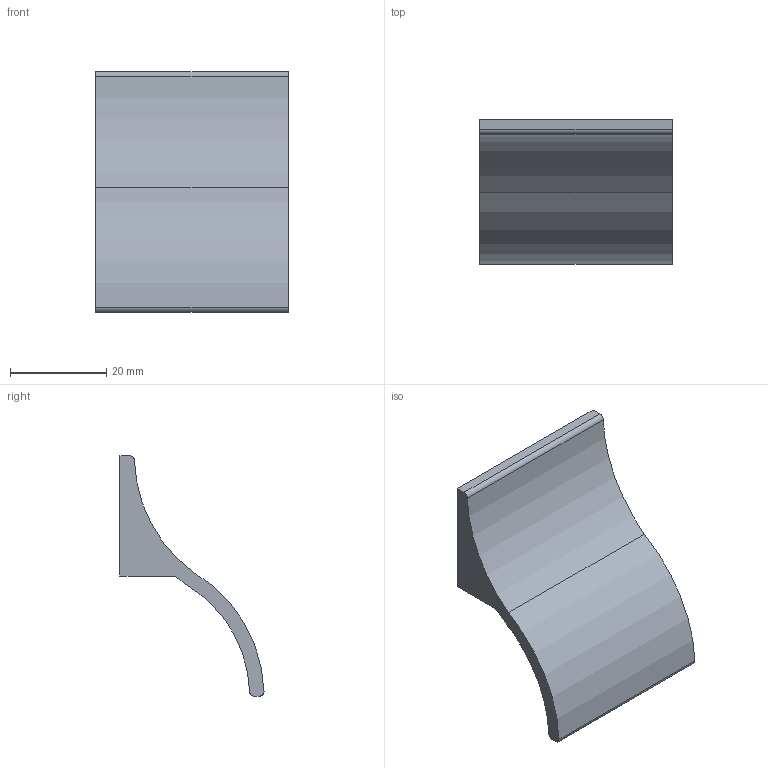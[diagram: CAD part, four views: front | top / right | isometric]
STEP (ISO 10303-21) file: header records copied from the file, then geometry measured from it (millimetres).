
FILE_DESCRIPTION( ( '' ), '1' );
FILE_NAME( 'D:/1.AUTOCAD EXPORT/Group 10/sheet_10_1/9131334.stp', '2013-10-18T08:33:48', ( '' ), ( '' ), ' ', ' ', ' ' );
FILE_SCHEMA( ( 'automotive_design' ) );
Length unit declared in the file: millimetre
Products named in the file (1): 1
Bounding box: 40 x 29.98 x 50 mm (x, y, z)
Volume: 8142.9 mm3; surface area: 6423.5 mm2
Topology: 1 solids, 1 shells, 27 faces, 66 edges, 44 vertices
Faces by surface type: cylinder 15, plane 12
Entity records: 1600 total; most frequent: DIRECTION 152, STYLED_ITEM 138, PRESENTATION_STYLE_ASSIGNMENT 138, CARTESIAN_POINT 138, COLOUR_RGB 138, ORIENTED_EDGE 132, EDGE_CURVE 66, CURVE_STYLE 66
